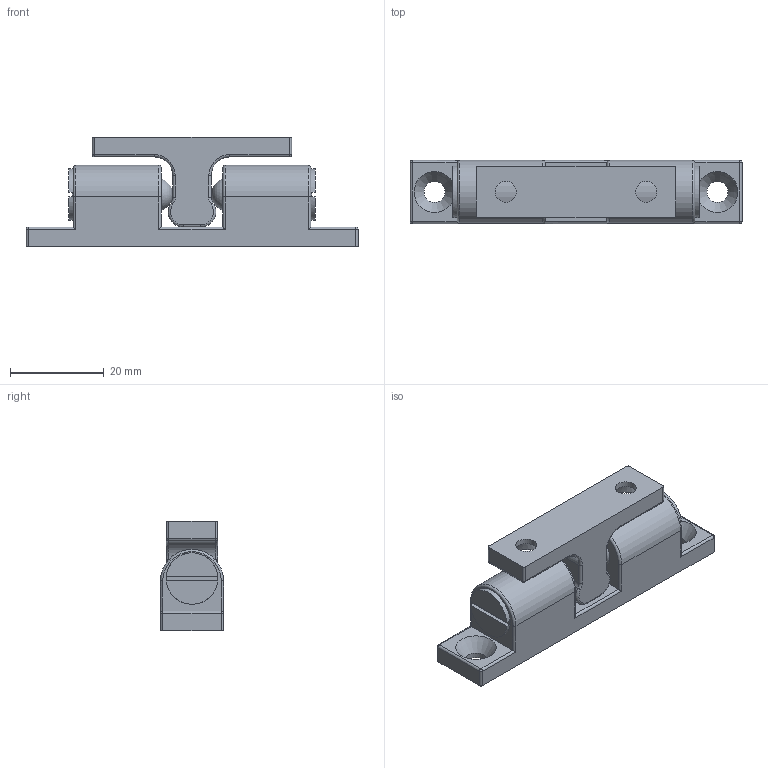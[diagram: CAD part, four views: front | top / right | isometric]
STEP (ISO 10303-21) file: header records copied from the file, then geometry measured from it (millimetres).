
FILE_DESCRIPTION(/* description */ (''),/* implementation_level */ '2;1');
FILE_NAME(/* name */ 'SMX10003M-YT.stp',/* time_stamp */ '2022-01-06T18:16:15+08:00',/* author */ (''),/* organization */ (''),/* preprocessor_version */ 'ST-DEVELOPER v16',/* originating_system */ 'SIEMENS PLM Software NX 11.0',/* authorisation */ '');
FILE_SCHEMA (('AUTOMOTIVE_DESIGN { 1 0 10303 214 3 1 1 1 }'));
Length unit declared in the file: millimetre
Products named in the file (1): Admi11A4D7E0a9rw
Bounding box: 71 x 13.5 x 23.4 mm (x, y, z)
Volume: 12101 mm3; surface area: 8256.4 mm2
Topology: 2 solids, 2 shells, 154 faces, 340 edges, 209 vertices
Faces by surface type: cylinder 64, plane 50, torus 16, sphere 10, bspline 10, cone 4
Full cylindrical faces by diameter (mm): 4.5 x4, 5 x4, 7 x2, 7.2 x2, 8.6 x2, 9 x2, 10 x2, 11 x2
Entity records: 7409 total; most frequent: CARTESIAN_POINT 4174, DIRECTION 711, ORIENTED_EDGE 568, AXIS2_PLACEMENT_3D 295, EDGE_CURVE 284, EDGE_LOOP 214, VERTEX_POINT 186, ADVANCED_FACE 154
